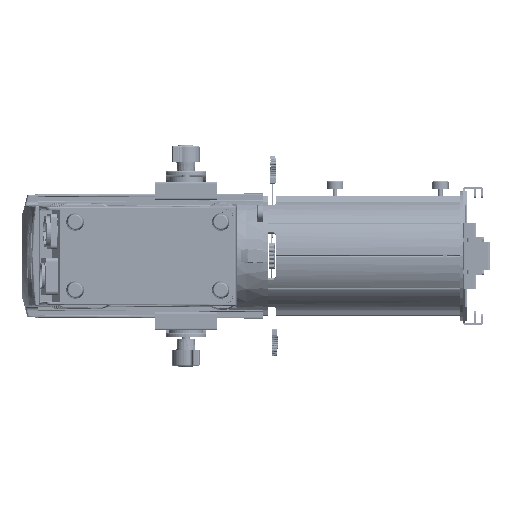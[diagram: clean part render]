
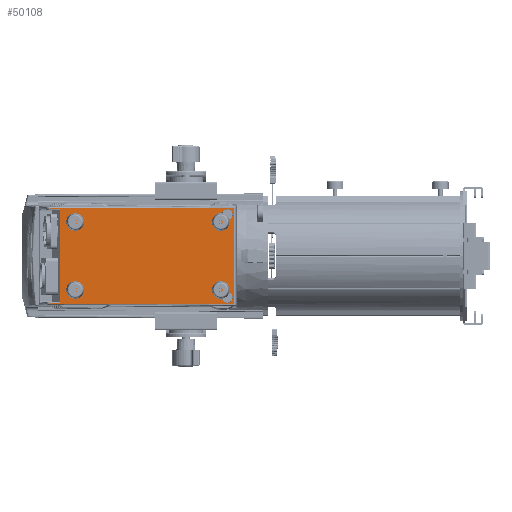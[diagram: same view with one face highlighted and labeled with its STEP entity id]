
A CAD part, left-side view. The second image highlights one B-rep face of the part: STEP entity #50108.
In plain terms, the highlighted planar face has unit normal (-1, 0, 0).
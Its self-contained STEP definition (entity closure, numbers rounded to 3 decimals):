
#32250=CARTESIAN_POINT('',(-95.807,156.128,
-34.97));
#32277=CARTESIAN_POINT('',(-95.807,156.128,
-34.47));
#32360=CARTESIAN_POINT('',(-95.807,156.128,
34.47));
#32387=CARTESIAN_POINT('',(-95.807,156.128,
34.97));
#33306=DIRECTION('',(0.,0.,1.));
#33307=VECTOR('',#33306,71.121);
#33308=CARTESIAN_POINT('',(-95.807,20.934,
-35.56));
#33309=LINE('',#33308,#33307);
#33337=DIRECTION('',(0.,1.,0.004));
#33338=VECTOR('',#33337,135.196);
#33339=CARTESIAN_POINT('',(-95.807,20.934,
-35.56));
#33340=LINE('',#33339,#33338);
#33344=DIRECTION('',(0.,0.,1.));
#33345=VECTOR('',#33344,0.5);
#33346=CARTESIAN_POINT('',(-95.807,156.128,
-34.97));
#33347=LINE('',#33346,#33345);
#33351=DIRECTION('',(0.,-1.,-0.004));
#33352=VECTOR('',#33351,6.883);
#33353=CARTESIAN_POINT('',(-95.807,156.128,
-34.47));
#33354=LINE('',#33353,#33352);
#33358=DIRECTION('',(0.,0.,1.));
#33359=VECTOR('',#33358,69.);
#33360=CARTESIAN_POINT('',(-95.807,149.246,
-34.5));
#33361=LINE('',#33360,#33359);
#33365=DIRECTION('',(0.,1.,-0.004));
#33366=VECTOR('',#33365,6.883);
#33367=CARTESIAN_POINT('',(-95.807,149.246,
34.5));
#33368=LINE('',#33367,#33366);
#33372=DIRECTION('',(0.,0.,1.));
#33373=VECTOR('',#33372,0.5);
#33374=CARTESIAN_POINT('',(-95.807,156.128,
34.47));
#33375=LINE('',#33374,#33373);
#33379=DIRECTION('',(0.,-1.,0.004));
#33380=VECTOR('',#33379,135.196);
#33381=CARTESIAN_POINT('',(-95.807,156.128,
34.97));
#33382=LINE('',#33381,#33380);
#33386=CARTESIAN_POINT('',(-95.807,26.,-30.476));
#33387=DIRECTION('',(-1.,0.,0.));
#33388=DIRECTION('',(0.,1.,0.));
#33389=AXIS2_PLACEMENT_3D('',#33386,#33387,#33388);
#33394=CARTESIAN_POINT('',(-95.807,26.,-30.476));
#33395=DIRECTION('',(-1.,0.,0.));
#33396=DIRECTION('',(0.,-1.,0.));
#33397=AXIS2_PLACEMENT_3D('',#33394,#33395,#33396);
#33402=CARTESIAN_POINT('',(-95.807,26.,30.476));
#33403=DIRECTION('',(-1.,0.,0.));
#33404=DIRECTION('',(0.,1.,0.));
#33405=AXIS2_PLACEMENT_3D('',#33402,#33403,#33404);
#33410=CARTESIAN_POINT('',(-95.807,26.,30.476));
#33411=DIRECTION('',(-1.,0.,0.));
#33412=DIRECTION('',(0.,-1.,0.));
#33413=AXIS2_PLACEMENT_3D('',#33410,#33411,#33412);
#33418=CARTESIAN_POINT('',(-95.807,138.,-25.));
#33419=DIRECTION('',(-1.,0.,0.));
#33420=DIRECTION('',(0.,1.,0.));
#33421=AXIS2_PLACEMENT_3D('',#33418,#33419,#33420);
#33426=CARTESIAN_POINT('',(-95.807,138.,-25.));
#33427=DIRECTION('',(-1.,0.,0.));
#33428=DIRECTION('',(0.,-1.,0.));
#33429=AXIS2_PLACEMENT_3D('',#33426,#33427,#33428);
#33434=CARTESIAN_POINT('',(-95.807,31.,-25.));
#33435=DIRECTION('',(-1.,0.,0.));
#33436=DIRECTION('',(0.,1.,0.));
#33437=AXIS2_PLACEMENT_3D('',#33434,#33435,#33436);
#33442=CARTESIAN_POINT('',(-95.807,31.,-25.));
#33443=DIRECTION('',(-1.,0.,0.));
#33444=DIRECTION('',(0.,-1.,0.));
#33445=AXIS2_PLACEMENT_3D('',#33442,#33443,#33444);
#33450=CARTESIAN_POINT('',(-95.807,31.,25.));
#33451=DIRECTION('',(-1.,0.,0.));
#33452=DIRECTION('',(0.,1.,0.));
#33453=AXIS2_PLACEMENT_3D('',#33450,#33451,#33452);
#33458=CARTESIAN_POINT('',(-95.807,31.,25.));
#33459=DIRECTION('',(-1.,0.,0.));
#33460=DIRECTION('',(0.,-1.,0.));
#33461=AXIS2_PLACEMENT_3D('',#33458,#33459,#33460);
#33466=CARTESIAN_POINT('',(-95.807,138.,25.));
#33467=DIRECTION('',(-1.,0.,0.));
#33468=DIRECTION('',(0.,1.,0.));
#33469=AXIS2_PLACEMENT_3D('',#33466,#33467,#33468);
#33474=CARTESIAN_POINT('',(-95.807,138.,25.));
#33475=DIRECTION('',(-1.,0.,0.));
#33476=DIRECTION('',(0.,-1.,0.));
#33477=AXIS2_PLACEMENT_3D('',#33474,#33475,#33476);
#47048=VERTEX_POINT('',#32250);
#47049=VERTEX_POINT('',#32277);
#47064=VERTEX_POINT('',#32360);
#47067=VERTEX_POINT('',#32387);
#47255=CARTESIAN_POINT('',(-95.807,20.934,
35.56));
#47256=VERTEX_POINT('',#47255);
#47261=CARTESIAN_POINT('',(-95.807,20.934,
-35.56));
#47262=VERTEX_POINT('',#47261);
#47263=CARTESIAN_POINT('',(-95.807,149.246,
-34.5));
#47264=VERTEX_POINT('',#47263);
#47265=CARTESIAN_POINT('',(-95.807,149.246,
34.5));
#47266=VERTEX_POINT('',#47265);
#47267=CARTESIAN_POINT('',(-95.807,29.959,
-30.476));
#47268=CARTESIAN_POINT('',(-95.807,22.041,
-30.476));
#47269=VERTEX_POINT('',#47267);
#47270=VERTEX_POINT('',#47268);
#47271=CARTESIAN_POINT('',(-95.807,29.959,
30.476));
#47272=CARTESIAN_POINT('',(-95.807,22.041,
30.476));
#47273=VERTEX_POINT('',#47271);
#47274=VERTEX_POINT('',#47272);
#47275=CARTESIAN_POINT('',(-95.807,139.25,-25.));
#47276=CARTESIAN_POINT('',(-95.807,136.75,-25.));
#47277=VERTEX_POINT('',#47275);
#47278=VERTEX_POINT('',#47276);
#47279=CARTESIAN_POINT('',(-95.807,32.25,-25.));
#47280=CARTESIAN_POINT('',(-95.807,29.75,-25.));
#47281=VERTEX_POINT('',#47279);
#47282=VERTEX_POINT('',#47280);
#47283=CARTESIAN_POINT('',(-95.807,32.25,25.));
#47284=CARTESIAN_POINT('',(-95.807,29.75,25.));
#47285=VERTEX_POINT('',#47283);
#47286=VERTEX_POINT('',#47284);
#47287=CARTESIAN_POINT('',(-95.807,139.25,25.));
#47288=CARTESIAN_POINT('',(-95.807,136.75,25.));
#47289=VERTEX_POINT('',#47287);
#47290=VERTEX_POINT('',#47288);
#50054=CARTESIAN_POINT('',(-95.807,160.,36.735));
#50055=DIRECTION('',(1.,0.,0.));
#50056=DIRECTION('',(0.,0.,-1.));
#50057=AXIS2_PLACEMENT_3D('',#50054,#50055,#50056);
#50058=PLANE('',#50057);
#50059=ORIENTED_EDGE('',*,*,#50041,.T.);
#50060=ORIENTED_EDGE('',*,*,#49351,.T.);
#50062=ORIENTED_EDGE('',*,*,#50061,.T.);
#50064=ORIENTED_EDGE('',*,*,#50063,.T.);
#50066=ORIENTED_EDGE('',*,*,#50065,.T.);
#50067=ORIENTED_EDGE('',*,*,#49591,.T.);
#50068=ORIENTED_EDGE('',*,*,#49900,.T.);
#50069=ORIENTED_EDGE('',*,*,#49982,.F.);
#50070=EDGE_LOOP('',(#50059,#50060,#50062,#50064,#50066,#50067,#50068,#50069));
#50071=FACE_OUTER_BOUND('',#50070,.F.);
#50073=ORIENTED_EDGE('',*,*,#50072,.T.);
#50075=ORIENTED_EDGE('',*,*,#50074,.T.);
#50076=EDGE_LOOP('',(#50073,#50075));
#50077=FACE_BOUND('',#50076,.F.);
#50079=ORIENTED_EDGE('',*,*,#50078,.T.);
#50081=ORIENTED_EDGE('',*,*,#50080,.T.);
#50082=EDGE_LOOP('',(#50079,#50081));
#50083=FACE_BOUND('',#50082,.F.);
#50085=ORIENTED_EDGE('',*,*,#50084,.T.);
#50087=ORIENTED_EDGE('',*,*,#50086,.T.);
#50088=EDGE_LOOP('',(#50085,#50087));
#50089=FACE_BOUND('',#50088,.F.);
#50091=ORIENTED_EDGE('',*,*,#50090,.T.);
#50093=ORIENTED_EDGE('',*,*,#50092,.T.);
#50094=EDGE_LOOP('',(#50091,#50093));
#50095=FACE_BOUND('',#50094,.F.);
#50097=ORIENTED_EDGE('',*,*,#50096,.T.);
#50099=ORIENTED_EDGE('',*,*,#50098,.T.);
#50100=EDGE_LOOP('',(#50097,#50099));
#50101=FACE_BOUND('',#50100,.F.);
#50103=ORIENTED_EDGE('',*,*,#50102,.T.);
#50105=ORIENTED_EDGE('',*,*,#50104,.T.);
#50106=EDGE_LOOP('',(#50103,#50105));
#50107=FACE_BOUND('',#50106,.F.);
#33390=CIRCLE('',#33389,3.959);
#33398=CIRCLE('',#33397,3.959);
#33406=CIRCLE('',#33405,3.959);
#33414=CIRCLE('',#33413,3.959);
#33422=CIRCLE('',#33421,1.25);
#33430=CIRCLE('',#33429,1.25);
#33438=CIRCLE('',#33437,1.25);
#33446=CIRCLE('',#33445,1.25);
#33454=CIRCLE('',#33453,1.25);
#33462=CIRCLE('',#33461,1.25);
#33470=CIRCLE('',#33469,1.25);
#33478=CIRCLE('',#33477,1.25);
#49351=EDGE_CURVE('',#47048,#47049,#33347,.T.);
#49591=EDGE_CURVE('',#47064,#47067,#33375,.T.);
#49900=EDGE_CURVE('',#47067,#47256,#33382,.T.);
#49982=EDGE_CURVE('',#47262,#47256,#33309,.T.);
#50041=EDGE_CURVE('',#47262,#47048,#33340,.T.);
#50061=EDGE_CURVE('',#47049,#47264,#33354,.T.);
#50063=EDGE_CURVE('',#47264,#47266,#33361,.T.);
#50065=EDGE_CURVE('',#47266,#47064,#33368,.T.);
#50072=EDGE_CURVE('',#47269,#47270,#33390,.T.);
#50074=EDGE_CURVE('',#47270,#47269,#33398,.T.);
#50078=EDGE_CURVE('',#47273,#47274,#33406,.T.);
#50080=EDGE_CURVE('',#47274,#47273,#33414,.T.);
#50084=EDGE_CURVE('',#47277,#47278,#33422,.T.);
#50086=EDGE_CURVE('',#47278,#47277,#33430,.T.);
#50090=EDGE_CURVE('',#47281,#47282,#33438,.T.);
#50092=EDGE_CURVE('',#47282,#47281,#33446,.T.);
#50096=EDGE_CURVE('',#47285,#47286,#33454,.T.);
#50098=EDGE_CURVE('',#47286,#47285,#33462,.T.);
#50102=EDGE_CURVE('',#47289,#47290,#33470,.T.);
#50104=EDGE_CURVE('',#47290,#47289,#33478,.T.);
#50108=ADVANCED_FACE('',(#50071,#50077,#50083,#50089,#50095,#50101,#50107),
#50058,.F.);
